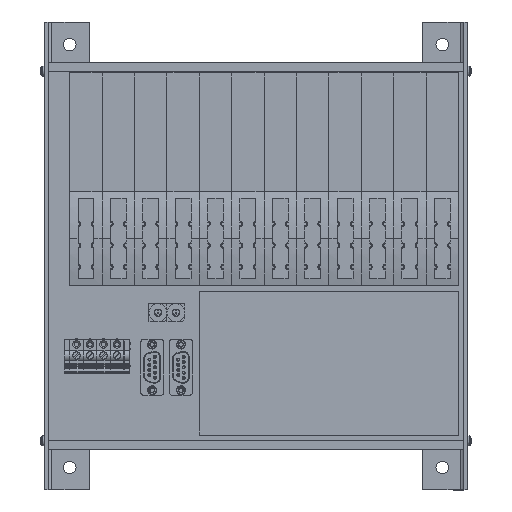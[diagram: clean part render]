
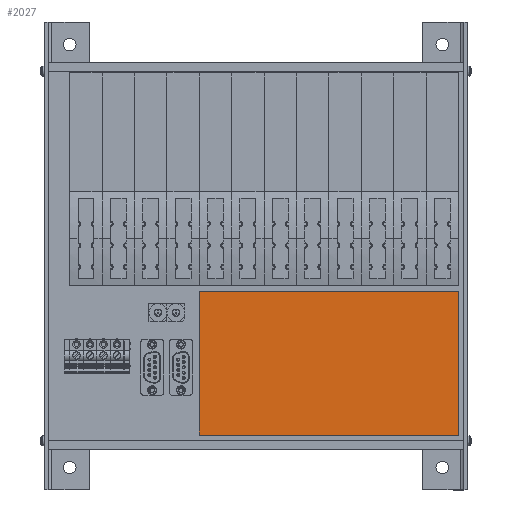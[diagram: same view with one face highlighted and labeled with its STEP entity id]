
A CAD part, top view. The second image highlights one B-rep face of the part: STEP entity #2027.
In plain terms, the highlighted planar face has unit normal (0, 0, 1).
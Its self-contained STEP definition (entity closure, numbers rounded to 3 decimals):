
#1324 = LINE ( 'NONE', #15293, #24597 ) ;
#1546 = CARTESIAN_POINT ( 'NONE',  ( -35.5, -99.5, 15.5 ) ) ;
#2027 = ADVANCED_FACE ( 'NONE', ( #10099 ), #28818, .T. ) ;
#2822 = VERTEX_POINT ( 'NONE', #22694 ) ;
#3049 = VECTOR ( 'NONE', #20175, 1000. ) ;
#3401 = EDGE_CURVE ( 'NONE', #10045, #27218, #1324, .T. ) ;
#3453 = ORIENTED_EDGE ( 'NONE', *, *, #28115, .F. ) ;
#6532 = VECTOR ( 'NONE', #28488, 1000. ) ;
#7535 = CARTESIAN_POINT ( 'NONE',  ( 108.5, -19.5, 15.5 ) ) ;
#10045 = VERTEX_POINT ( 'NONE', #16557 ) ;
#10086 = DIRECTION ( 'NONE',  ( 0., 0., 1. ) ) ;
#10099 = FACE_OUTER_BOUND ( 'NONE', #10708, .T. ) ;
#10708 = EDGE_LOOP ( 'NONE', ( #10721, #24929, #13647, #3453 ) ) ;
#10721 = ORIENTED_EDGE ( 'NONE', *, *, #3401, .F. ) ;
#12417 = EDGE_CURVE ( 'NONE', #18327, #10045, #27811, .T. ) ;
#12536 = CARTESIAN_POINT ( 'NONE',  ( 36.5, -59.5, 15.5 ) ) ;
#13647 = ORIENTED_EDGE ( 'NONE', *, *, #25580, .F. ) ;
#15293 = CARTESIAN_POINT ( 'NONE',  ( -35.5, -19.5, 15.5 ) ) ;
#15844 = CARTESIAN_POINT ( 'NONE',  ( 108.5, -99.5, 15.5 ) ) ;
#16468 = CARTESIAN_POINT ( 'NONE',  ( 108.5, -99.5, 15.5 ) ) ;
#16557 = CARTESIAN_POINT ( 'NONE',  ( -35.5, -99.5, 15.5 ) ) ;
#17621 = VECTOR ( 'NONE', #18191, 1000. ) ;
#18191 = DIRECTION ( 'NONE',  ( 0., -1., 0. ) ) ;
#18327 = VERTEX_POINT ( 'NONE', #16468 ) ;
#18503 = CARTESIAN_POINT ( 'NONE',  ( -35.5, -19.5, 15.5 ) ) ;
#18942 = AXIS2_PLACEMENT_3D ( 'NONE', #12536, #10086, #28716 ) ;
#20175 = DIRECTION ( 'NONE',  ( -1., 0., 0. ) ) ;
#22694 = CARTESIAN_POINT ( 'NONE',  ( 108.5, -19.5, 15.5 ) ) ;
#24597 = VECTOR ( 'NONE', #24605, 1000. ) ;
#24605 = DIRECTION ( 'NONE',  ( 0., 1., 0. ) ) ;
#24929 = ORIENTED_EDGE ( 'NONE', *, *, #12417, .F. ) ;
#25085 = LINE ( 'NONE', #7535, #6532 ) ;
#25580 = EDGE_CURVE ( 'NONE', #2822, #18327, #29979, .T. ) ;
#27218 = VERTEX_POINT ( 'NONE', #18503 ) ;
#27811 = LINE ( 'NONE', #1546, #3049 ) ;
#28115 = EDGE_CURVE ( 'NONE', #27218, #2822, #25085, .T. ) ;
#28488 = DIRECTION ( 'NONE',  ( 1., 0., 0. ) ) ;
#28716 = DIRECTION ( 'NONE',  ( 1., 0., 0. ) ) ;
#28818 = PLANE ( 'NONE',  #18942 ) ;
#29979 = LINE ( 'NONE', #15844, #17621 ) ;
